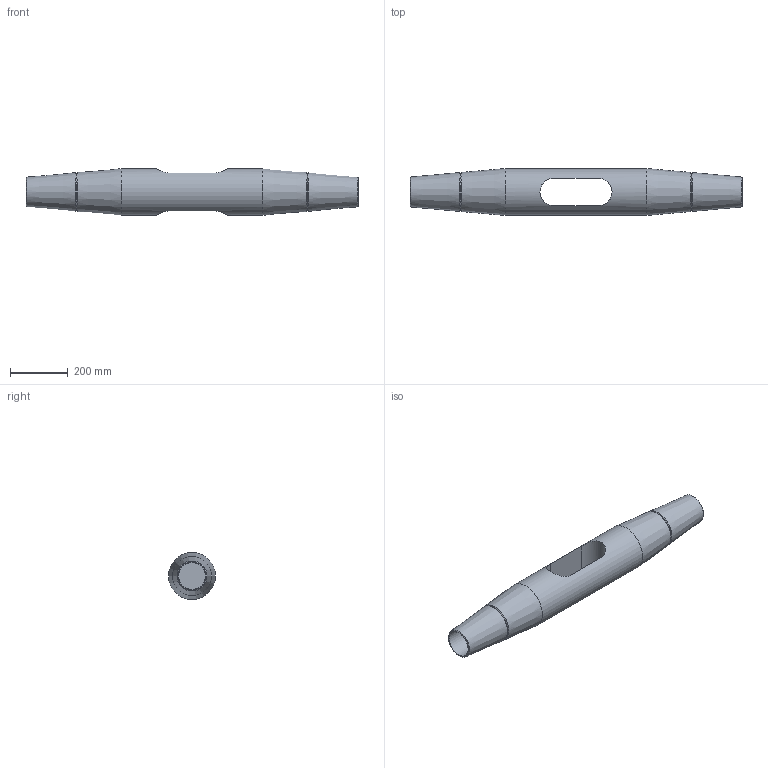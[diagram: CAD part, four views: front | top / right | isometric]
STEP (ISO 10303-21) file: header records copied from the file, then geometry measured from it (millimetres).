
FILE_DESCRIPTION(/* description */ (''),/* implementation_level */ '2;1');
FILE_NAME(/* name */ 'G:\Engineering\700 CAD\Internet-PX-1-step-igs-dxf\520-KMF-Arbeitsdateien\520-090-KMF.stp',/* time_stamp */ '2020-07-02T13:28:36+02:00',/* author */ ('schwarz'),/* organization */ (''),/* preprocessor_version */ 'ST-DEVELOPER v16.1',/* originating_system */ 'Autodesk Inventor 2016',/* authorisation */ '');
FILE_SCHEMA (('AUTOMOTIVE_DESIGN { 1 0 10303 214 3 1 1 }'));
Length unit declared in the file: centimetre
Products named in the file (1): Kreuzmuffen-Set 520 090 Kunde
Bounding box: 1150 x 162 x 162 mm (x, y, z)
Volume: 14264673.5 mm3; surface area: 657443.7 mm2
Topology: 1 solids, 1 shells, 21 faces, 41 edges, 24 vertices
Faces by surface type: cone 10, plane 6, cylinder 5
Full cylindrical faces by diameter (mm): 93 x2, 162 x1
Entity records: 653 total; most frequent: CARTESIAN_POINT 206, DIRECTION 84, ORIENTED_EDGE 56, EDGE_LOOP 38, AXIS2_PLACEMENT_3D 38, EDGE_CURVE 28, VERTEX_POINT 24, STYLED_ITEM 22
